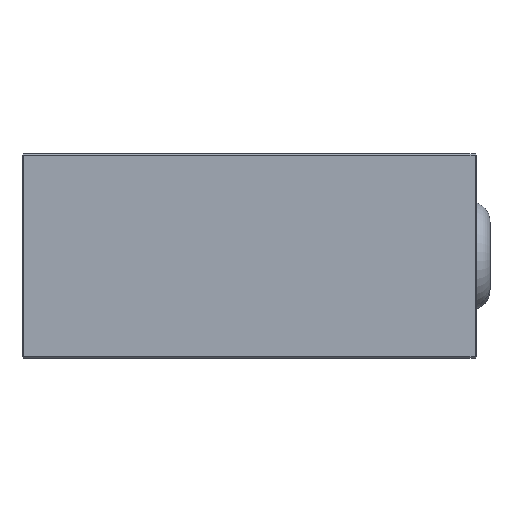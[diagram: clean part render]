
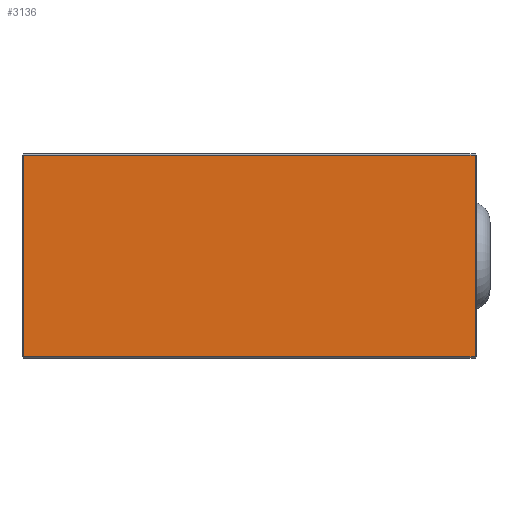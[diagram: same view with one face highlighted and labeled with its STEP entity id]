
A CAD part, front view. The second image highlights one B-rep face of the part: STEP entity #3136.
In plain terms, the highlighted planar face has unit normal (0, -1, 0).
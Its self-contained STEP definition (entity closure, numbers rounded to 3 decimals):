
#775 = DIRECTION ( 'NONE',  ( 0., 1., 0. ) ) ;
#2241 = VERTEX_POINT ( 'NONE', #4081 ) ;
#2659 = CARTESIAN_POINT ( 'NONE',  ( 52.382, -25.753, 22.2 ) ) ;
#2723 = EDGE_CURVE ( 'NONE', #11562, #2241, #19749, .T. ) ;
#2755 = EDGE_CURVE ( 'NONE', #2241, #4731, #2886, .T. ) ;
#2796 = EDGE_CURVE ( 'NONE', #4731, #18200, #6018, .T. ) ;
#2859 = EDGE_CURVE ( 'NONE', #18200, #11562, #18517, .T. ) ;
#2886 = LINE ( 'NONE', #16159, #6781 ) ;
#2990 = DIRECTION ( 'NONE',  ( 0., 0., -1. ) ) ;
#3136 = ADVANCED_FACE ( 'NONE', ( #8337 ), #13979, .F. ) ;
#4081 = CARTESIAN_POINT ( 'NONE',  ( -47.018, -25.753, -22.2 ) ) ;
#4180 = EDGE_LOOP ( 'NONE', ( #13299, #7806, #5176, #7396 ) ) ;
#4669 = DIRECTION ( 'NONE',  ( 1., 0., 0. ) ) ;
#4731 = VERTEX_POINT ( 'NONE', #17382 ) ;
#5176 = ORIENTED_EDGE ( 'NONE', *, *, #2796, .T. ) ;
#5492 = VECTOR ( 'NONE', #13189, 1000. ) ;
#6018 = LINE ( 'NONE', #16361, #14747 ) ;
#6272 = CARTESIAN_POINT ( 'NONE',  ( -47.018, -25.753, -22.5 ) ) ;
#6405 = DIRECTION ( 'NONE',  ( 0., 0., 1. ) ) ;
#6781 = VECTOR ( 'NONE', #4669, 1000. ) ;
#7396 = ORIENTED_EDGE ( 'NONE', *, *, #2859, .T. ) ;
#7806 = ORIENTED_EDGE ( 'NONE', *, *, #2755, .T. ) ;
#8337 = FACE_OUTER_BOUND ( 'NONE', #4180, .T. ) ;
#10731 = CARTESIAN_POINT ( 'NONE',  ( 52.682, -25.753, 22.5 ) ) ;
#11347 = AXIS2_PLACEMENT_3D ( 'NONE', #10731, #775, #12391 ) ;
#11562 = VERTEX_POINT ( 'NONE', #21256 ) ;
#12391 = DIRECTION ( 'NONE',  ( 0., 0., 1. ) ) ;
#13189 = DIRECTION ( 'NONE',  ( -1., 0., 0. ) ) ;
#13299 = ORIENTED_EDGE ( 'NONE', *, *, #2723, .T. ) ;
#13979 = PLANE ( 'NONE',  #11347 ) ;
#14747 = VECTOR ( 'NONE', #6405, 1000. ) ;
#15525 = VECTOR ( 'NONE', #2990, 1000. ) ;
#16159 = CARTESIAN_POINT ( 'NONE',  ( 52.682, -25.753, -22.2 ) ) ;
#16361 = CARTESIAN_POINT ( 'NONE',  ( 52.382, -25.753, 22.5 ) ) ;
#17382 = CARTESIAN_POINT ( 'NONE',  ( 52.382, -25.753, -22.2 ) ) ;
#18200 = VERTEX_POINT ( 'NONE', #2659 ) ;
#18517 = LINE ( 'NONE', #21171, #5492 ) ;
#19749 = LINE ( 'NONE', #6272, #15525 ) ;
#21171 = CARTESIAN_POINT ( 'NONE',  ( 52.682, -25.753, 22.2 ) ) ;
#21256 = CARTESIAN_POINT ( 'NONE',  ( -47.018, -25.753, 22.2 ) ) ;
